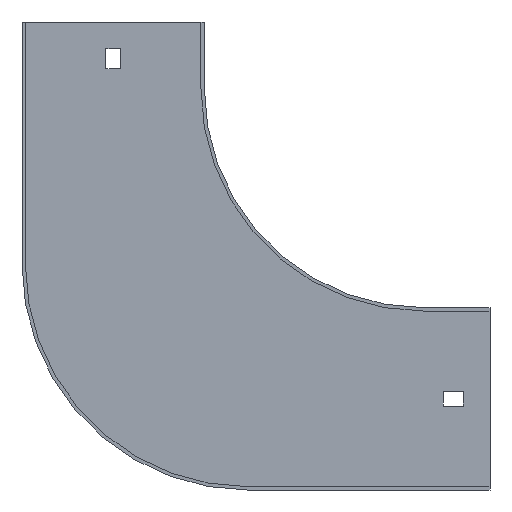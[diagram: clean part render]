
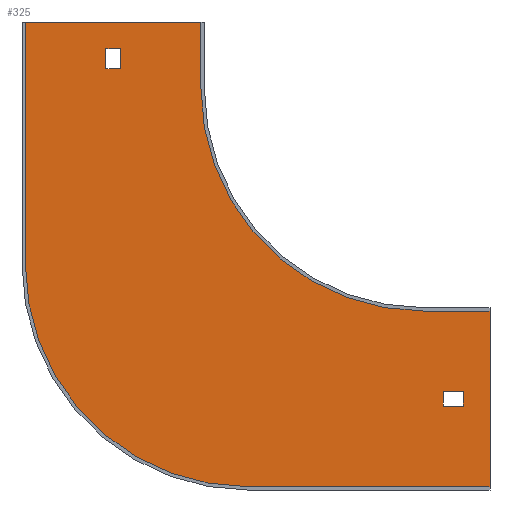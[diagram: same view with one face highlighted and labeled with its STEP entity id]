
A CAD part, front view. The second image highlights one B-rep face of the part: STEP entity #325.
In plain terms, the highlighted planar face has unit normal (0, -1, 0).
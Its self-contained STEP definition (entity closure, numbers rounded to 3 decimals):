
#4 = EDGE_CURVE ( 'NONE', #295, #530, #856, .T. ) ;
#23 = LINE ( 'NONE', #524, #681 ) ;
#34 = CIRCLE ( 'NONE', #286, 100. ) ;
#40 = LINE ( 'NONE', #314, #665 ) ;
#45 = LINE ( 'NONE', #103, #65 ) ;
#55 = LINE ( 'NONE', #860, #152 ) ;
#61 = LINE ( 'NONE', #349, #544 ) ;
#62 = EDGE_LOOP ( 'NONE', ( #258, #836, #518, #75 ) ) ;
#65 = VECTOR ( 'NONE', #656, 1000. ) ;
#69 = ORIENTED_EDGE ( 'NONE', *, *, #701, .F. ) ;
#70 = CARTESIAN_POINT ( 'NONE',  ( 0., -1.5, 18. ) ) ;
#75 = ORIENTED_EDGE ( 'NONE', *, *, #503, .T. ) ;
#83 = DIRECTION ( 'NONE',  ( 1., 0., 0. ) ) ;
#100 = EDGE_CURVE ( 'NONE', #461, #841, #624, .T. ) ;
#103 = CARTESIAN_POINT ( 'NONE',  ( 0., -1.5, -100. ) ) ;
#104 = VERTEX_POINT ( 'NONE', #810 ) ;
#105 = DIRECTION ( 'NONE',  ( 1., 0., 0. ) ) ;
#107 = DIRECTION ( 'NONE',  ( 0., 0., -1. ) ) ;
#121 = CARTESIAN_POINT ( 'NONE',  ( -142.75, -1.5, 18. ) ) ;
#137 = EDGE_CURVE ( 'NONE', #816, #295, #45, .T. ) ;
#139 = EDGE_CURVE ( 'NONE', #850, #292, #645, .T. ) ;
#146 = CARTESIAN_POINT ( 'NONE',  ( 30., -1.5, -98.5 ) ) ;
#152 = VECTOR ( 'NONE', #672, 1000. ) ;
#157 = DIRECTION ( 'NONE',  ( 0., 0., -1. ) ) ;
#159 = EDGE_CURVE ( 'NONE', #721, #395, #40, .T. ) ;
#164 = ORIENTED_EDGE ( 'NONE', *, *, #159, .F. ) ;
#165 = CARTESIAN_POINT ( 'NONE',  ( 9., -1.5, -142.75 ) ) ;
#170 = DIRECTION ( 'NONE',  ( -1., 0., 0. ) ) ;
#172 = ORIENTED_EDGE ( 'NONE', *, *, #607, .F. ) ;
#179 = FACE_BOUND ( 'NONE', #62, .T. ) ;
#199 = EDGE_CURVE ( 'NONE', #530, #354, #573, .T. ) ;
#216 = CARTESIAN_POINT ( 'NONE',  ( 18., -1.5, 0. ) ) ;
#225 = EDGE_LOOP ( 'NONE', ( #319, #697, #365, #172 ) ) ;
#233 = ORIENTED_EDGE ( 'NONE', *, *, #742, .F. ) ;
#248 = LINE ( 'NONE', #852, #338 ) ;
#250 = EDGE_CURVE ( 'NONE', #104, #461, #732, .T. ) ;
#257 = CARTESIAN_POINT ( 'NONE',  ( -136.25, -1.5, 18. ) ) ;
#258 = ORIENTED_EDGE ( 'NONE', *, *, #415, .T. ) ;
#265 = VECTOR ( 'NONE', #405, 1000. ) ;
#279 = CARTESIAN_POINT ( 'NONE',  ( 0., -1.5, 0. ) ) ;
#286 = AXIS2_PLACEMENT_3D ( 'NONE', #279, #490, #157 ) ;
#292 = VERTEX_POINT ( 'NONE', #396 ) ;
#295 = VERTEX_POINT ( 'NONE', #795 ) ;
#303 = DIRECTION ( 'NONE',  ( 0., 0., -1. ) ) ;
#307 = VERTEX_POINT ( 'NONE', #257 ) ;
#313 = CARTESIAN_POINT ( 'NONE',  ( 30., -1.5, -179. ) ) ;
#314 = CARTESIAN_POINT ( 'NONE',  ( -179., -1.5, -79. ) ) ;
#317 = CARTESIAN_POINT ( 'NONE',  ( 0., -1.5, 0. ) ) ;
#319 = ORIENTED_EDGE ( 'NONE', *, *, #100, .F. ) ;
#323 = VECTOR ( 'NONE', #666, 1000. ) ;
#325 = ADVANCED_FACE ( 'NONE', ( #517, #862, #179 ), #794, .T. ) ;
#330 = CIRCLE ( 'NONE', #772, 100. ) ;
#338 = VECTOR ( 'NONE', #105, 1000. ) ;
#339 = VERTEX_POINT ( 'NONE', #470 ) ;
#347 = DIRECTION ( 'NONE',  ( -1., 0., 0. ) ) ;
#349 = CARTESIAN_POINT ( 'NONE',  ( 0., -1.5, 9. ) ) ;
#351 = CARTESIAN_POINT ( 'NONE',  ( -179., -1.5, -79. ) ) ;
#354 = VERTEX_POINT ( 'NONE', #660 ) ;
#365 = ORIENTED_EDGE ( 'NONE', *, *, #632, .F. ) ;
#391 = ORIENTED_EDGE ( 'NONE', *, *, #199, .F. ) ;
#395 = VERTEX_POINT ( 'NONE', #410 ) ;
#396 = CARTESIAN_POINT ( 'NONE',  ( -100., -1.5, 0. ) ) ;
#405 = DIRECTION ( 'NONE',  ( 0., 0., -1. ) ) ;
#406 = CARTESIAN_POINT ( 'NONE',  ( 18., -1.5, -136.25 ) ) ;
#410 = CARTESIAN_POINT ( 'NONE',  ( -179., -1.5, 30. ) ) ;
#415 = EDGE_CURVE ( 'NONE', #611, #307, #737, .T. ) ;
#433 = CARTESIAN_POINT ( 'NONE',  ( -142.75, -1.5, 0. ) ) ;
#445 = VECTOR ( 'NONE', #347, 1000. ) ;
#448 = LINE ( 'NONE', #433, #750 ) ;
#461 = VERTEX_POINT ( 'NONE', #406 ) ;
#463 = VECTOR ( 'NONE', #840, 1000. ) ;
#470 = CARTESIAN_POINT ( 'NONE',  ( -136.25, -1.5, 9. ) ) ;
#481 = EDGE_LOOP ( 'NONE', ( #853, #164, #233, #391, #559, #560, #69, #567 ) ) ;
#490 = DIRECTION ( 'NONE',  ( 0., -1., 0. ) ) ;
#503 = EDGE_CURVE ( 'NONE', #504, #611, #448, .T. ) ;
#504 = VERTEX_POINT ( 'NONE', #767 ) ;
#515 = CARTESIAN_POINT ( 'NONE',  ( 9., -1.5, -136.25 ) ) ;
#517 = FACE_BOUND ( 'NONE', #225, .T. ) ;
#518 = ORIENTED_EDGE ( 'NONE', *, *, #710, .T. ) ;
#519 = AXIS2_PLACEMENT_3D ( 'NONE', #317, #529, #791 ) ;
#524 = CARTESIAN_POINT ( 'NONE',  ( -180.5, -1.5, 30. ) ) ;
#529 = DIRECTION ( 'NONE',  ( 0., -1., 0. ) ) ;
#530 = VERTEX_POINT ( 'NONE', #313 ) ;
#531 = VERTEX_POINT ( 'NONE', #165 ) ;
#544 = VECTOR ( 'NONE', #626, 1000. ) ;
#550 = CARTESIAN_POINT ( 'NONE',  ( 0., -1.5, -136.25 ) ) ;
#559 = ORIENTED_EDGE ( 'NONE', *, *, #4, .F. ) ;
#560 = ORIENTED_EDGE ( 'NONE', *, *, #137, .F. ) ;
#567 = ORIENTED_EDGE ( 'NONE', *, *, #139, .F. ) ;
#573 = LINE ( 'NONE', #826, #764 ) ;
#578 = CARTESIAN_POINT ( 'NONE',  ( -100., -1.5, 30. ) ) ;
#585 = VECTOR ( 'NONE', #83, 1000. ) ;
#591 = DIRECTION ( 'NONE',  ( 0., 0., 1. ) ) ;
#607 = EDGE_CURVE ( 'NONE', #841, #531, #828, .T. ) ;
#611 = VERTEX_POINT ( 'NONE', #121 ) ;
#624 = LINE ( 'NONE', #550, #445 ) ;
#626 = DIRECTION ( 'NONE',  ( -1., 0., 0. ) ) ;
#632 = EDGE_CURVE ( 'NONE', #531, #104, #248, .T. ) ;
#645 = LINE ( 'NONE', #578, #859 ) ;
#656 = DIRECTION ( 'NONE',  ( 1., 0., 0. ) ) ;
#660 = CARTESIAN_POINT ( 'NONE',  ( -79., -1.5, -179. ) ) ;
#665 = VECTOR ( 'NONE', #591, 1000. ) ;
#666 = DIRECTION ( 'NONE',  ( 0., 0., 1. ) ) ;
#672 = DIRECTION ( 'NONE',  ( 0., 0., -1. ) ) ;
#675 = CARTESIAN_POINT ( 'NONE',  ( -79., -1.5, -79. ) ) ;
#681 = VECTOR ( 'NONE', #787, 1000. ) ;
#697 = ORIENTED_EDGE ( 'NONE', *, *, #250, .F. ) ;
#701 = EDGE_CURVE ( 'NONE', #292, #816, #34, .T. ) ;
#706 = CARTESIAN_POINT ( 'NONE',  ( 9., -1.5, 0. ) ) ;
#710 = EDGE_CURVE ( 'NONE', #339, #504, #61, .T. ) ;
#711 = DIRECTION ( 'NONE',  ( 0., 0., 1. ) ) ;
#721 = VERTEX_POINT ( 'NONE', #351 ) ;
#728 = EDGE_CURVE ( 'NONE', #395, #850, #23, .T. ) ;
#732 = LINE ( 'NONE', #216, #323 ) ;
#737 = LINE ( 'NONE', #70, #585 ) ;
#742 = EDGE_CURVE ( 'NONE', #354, #721, #330, .T. ) ;
#750 = VECTOR ( 'NONE', #711, 1000. ) ;
#764 = VECTOR ( 'NONE', #170, 1000. ) ;
#767 = CARTESIAN_POINT ( 'NONE',  ( -142.75, -1.5, 9. ) ) ;
#769 = DIRECTION ( 'NONE',  ( 0., 1., 0. ) ) ;
#772 = AXIS2_PLACEMENT_3D ( 'NONE', #675, #769, #107 ) ;
#787 = DIRECTION ( 'NONE',  ( 1., 0., 0. ) ) ;
#791 = DIRECTION ( 'NONE',  ( 0., 0., -1. ) ) ;
#793 = EDGE_CURVE ( 'NONE', #307, #339, #55, .T. ) ;
#794 = PLANE ( 'NONE',  #519 ) ;
#795 = CARTESIAN_POINT ( 'NONE',  ( 30., -1.5, -100. ) ) ;
#810 = CARTESIAN_POINT ( 'NONE',  ( 18., -1.5, -142.75 ) ) ;
#816 = VERTEX_POINT ( 'NONE', #846 ) ;
#826 = CARTESIAN_POINT ( 'NONE',  ( 30., -1.5, -179. ) ) ;
#828 = LINE ( 'NONE', #706, #463 ) ;
#836 = ORIENTED_EDGE ( 'NONE', *, *, #793, .T. ) ;
#838 = CARTESIAN_POINT ( 'NONE',  ( -100., -1.5, 30. ) ) ;
#840 = DIRECTION ( 'NONE',  ( 0., 0., -1. ) ) ;
#841 = VERTEX_POINT ( 'NONE', #515 ) ;
#846 = CARTESIAN_POINT ( 'NONE',  ( 0., -1.5, -100. ) ) ;
#850 = VERTEX_POINT ( 'NONE', #838 ) ;
#852 = CARTESIAN_POINT ( 'NONE',  ( 0., -1.5, -142.75 ) ) ;
#853 = ORIENTED_EDGE ( 'NONE', *, *, #728, .F. ) ;
#856 = LINE ( 'NONE', #146, #265 ) ;
#859 = VECTOR ( 'NONE', #303, 1000. ) ;
#860 = CARTESIAN_POINT ( 'NONE',  ( -136.25, -1.5, 0. ) ) ;
#862 = FACE_OUTER_BOUND ( 'NONE', #481, .T. ) ;
